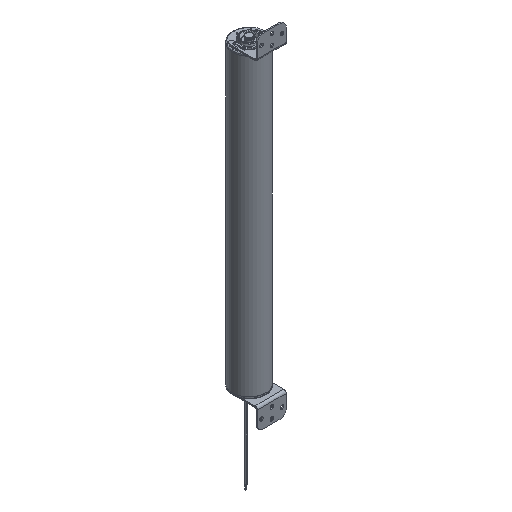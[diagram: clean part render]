
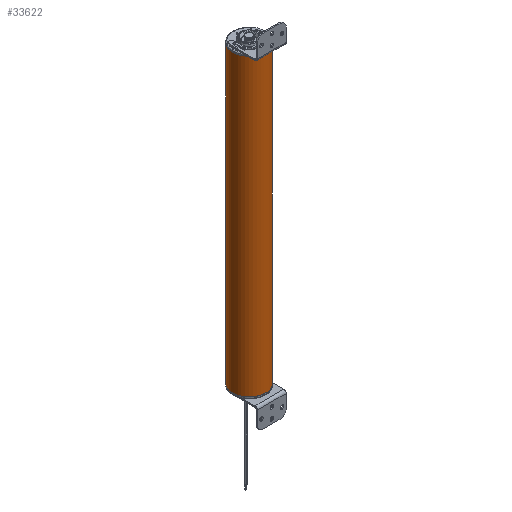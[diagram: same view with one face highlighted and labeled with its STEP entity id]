
A CAD part, isometric view. The second image highlights one B-rep face of the part: STEP entity #33622.
In plain terms, the highlighted cylindrical face has radius 40 mm (diameter 80 mm), a partial arc.
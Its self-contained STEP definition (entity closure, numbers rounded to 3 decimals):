
#7 = VERTEX_POINT ( 'NONE', #17777 ) ;
#208 = EDGE_CURVE ( 'NONE', #36827, #33903, #39097, .T. ) ;
#1810 = ORIENTED_EDGE ( 'NONE', *, *, #208, .T. ) ;
#5130 = VECTOR ( 'NONE', #30965, 1000. ) ;
#5736 = CYLINDRICAL_SURFACE ( 'NONE', #28669, 40. ) ;
#6773 = AXIS2_PLACEMENT_3D ( 'NONE', #25910, #23069, #19998 ) ;
#9383 = EDGE_CURVE ( 'NONE', #14639, #7, #17213, .T. ) ;
#10687 = VECTOR ( 'NONE', #32738, 1000. ) ;
#13070 = DIRECTION ( 'NONE',  ( -1., 0., 0. ) ) ;
#13680 = DIRECTION ( 'NONE',  ( 0., 0., 1. ) ) ;
#14232 = EDGE_CURVE ( 'NONE', #14639, #33903, #28107, .T. ) ;
#14639 = VERTEX_POINT ( 'NONE', #34529 ) ;
#14742 = CARTESIAN_POINT ( 'NONE',  ( 0., 0., 715.7 ) ) ;
#17213 = CIRCLE ( 'NONE', #6773, 40. ) ;
#17777 = CARTESIAN_POINT ( 'NONE',  ( 40., 0., 715.7 ) ) ;
#18538 = CARTESIAN_POINT ( 'NONE',  ( -40., 0., 715.7 ) ) ;
#19998 = DIRECTION ( 'NONE',  ( -1., 0., 0. ) ) ;
#20311 = LINE ( 'NONE', #27212, #10687 ) ;
#20633 = ORIENTED_EDGE ( 'NONE', *, *, #9383, .T. ) ;
#22538 = EDGE_LOOP ( 'NONE', ( #20633, #26028, #1810, #39488 ) ) ;
#23069 = DIRECTION ( 'NONE',  ( 0., 0., -1. ) ) ;
#25065 = EDGE_CURVE ( 'NONE', #7, #36827, #20311, .T. ) ;
#25910 = CARTESIAN_POINT ( 'NONE',  ( 0., 0., 715.7 ) ) ;
#26028 = ORIENTED_EDGE ( 'NONE', *, *, #25065, .T. ) ;
#26956 = DIRECTION ( 'NONE',  ( -1., 0., 0. ) ) ;
#27212 = CARTESIAN_POINT ( 'NONE',  ( 40., 0., 715.7 ) ) ;
#28107 = LINE ( 'NONE', #18538, #5130 ) ;
#28669 = AXIS2_PLACEMENT_3D ( 'NONE', #14742, #37149, #26956 ) ;
#29292 = AXIS2_PLACEMENT_3D ( 'NONE', #38142, #13680, #13070 ) ;
#30965 = DIRECTION ( 'NONE',  ( 0., 0., -1. ) ) ;
#32738 = DIRECTION ( 'NONE',  ( 0., 0., -1. ) ) ;
#32755 = CARTESIAN_POINT ( 'NONE',  ( 40., 0., 0. ) ) ;
#33622 = ADVANCED_FACE ( 'NONE', ( #40015 ), #5736, .T. ) ;
#33903 = VERTEX_POINT ( 'NONE', #38954 ) ;
#34529 = CARTESIAN_POINT ( 'NONE',  ( -40., 0., 715.7 ) ) ;
#36827 = VERTEX_POINT ( 'NONE', #32755 ) ;
#37149 = DIRECTION ( 'NONE',  ( 0., 0., -1. ) ) ;
#38142 = CARTESIAN_POINT ( 'NONE',  ( 0., 0., 0. ) ) ;
#38954 = CARTESIAN_POINT ( 'NONE',  ( -40., 0., 0. ) ) ;
#39097 = CIRCLE ( 'NONE', #29292, 40. ) ;
#39488 = ORIENTED_EDGE ( 'NONE', *, *, #14232, .F. ) ;
#40015 = FACE_OUTER_BOUND ( 'NONE', #22538, .T. ) ;
